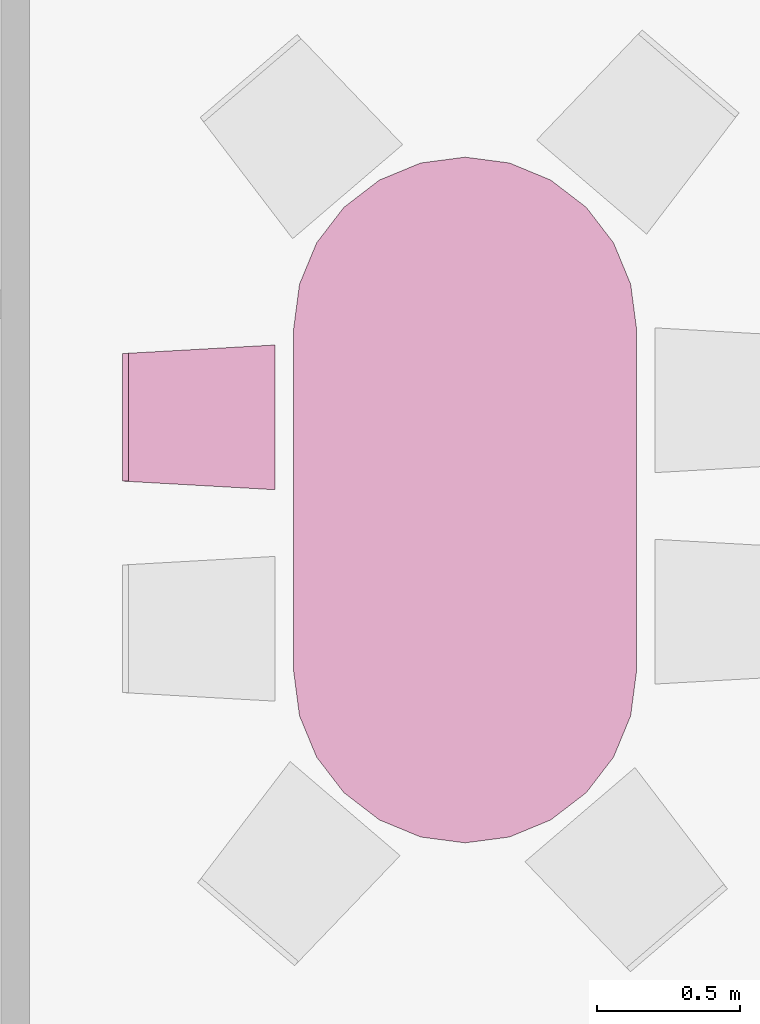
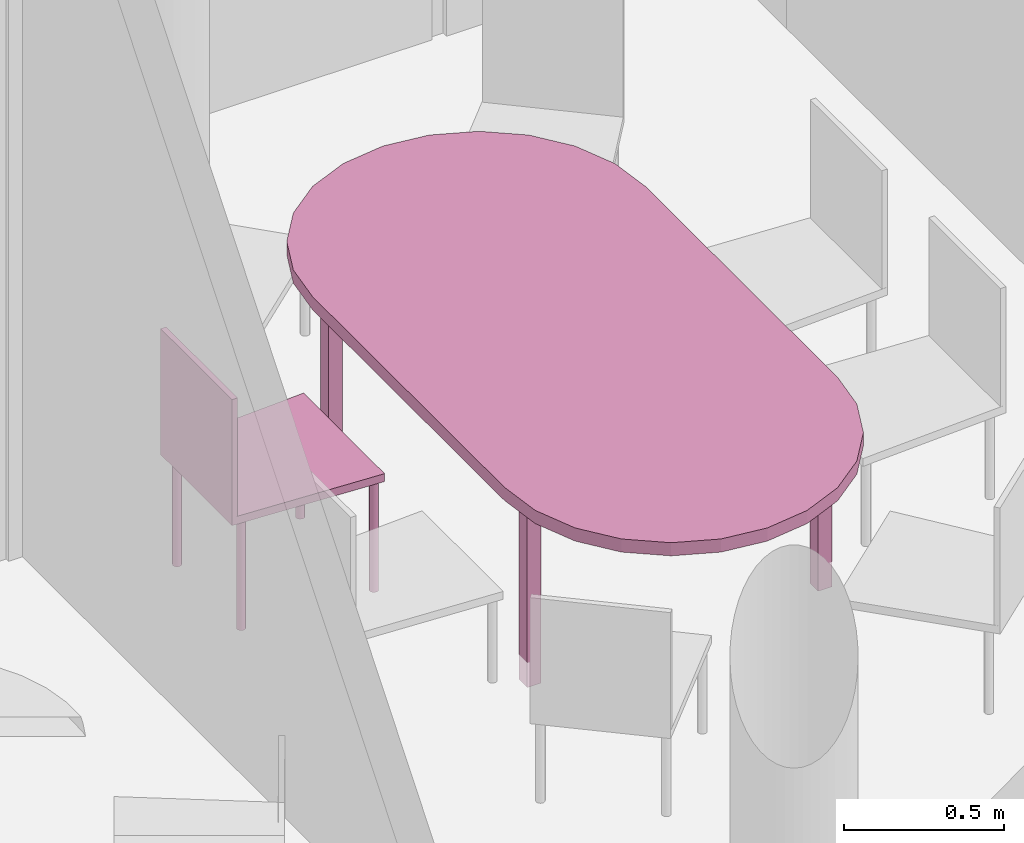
"""IFC4 building model written with IfcOpenShell, lengths in metres."""

from ifc_helpers import new_model, entity, si_unit, converted_unit, derived_unit, frame, origin, place, context, subcontext, project, spatial, faceted_brep, element, save


model = new_model("IFC4")

# Units and contexts
model_context = context("Model", 3, precision=1e-05, world=origin())
body_context = subcontext(model_context, "Body", "Model", "MODEL_VIEW")
ifc_project = project(units=[si_unit("LENGTHUNIT", "METRE"), si_unit("AREAUNIT", "SQUARE_METRE"), si_unit("VOLUMEUNIT", "CUBIC_METRE"), si_unit("MASSUNIT", "GRAM", prefix="KILO"), converted_unit("PLANEANGLEUNIT", "DEGREE", entity("IfcPlaneAngleMeasure", 0.0174532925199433), si_unit("PLANEANGLEUNIT", "RADIAN"), dimensions=[0, 0, 0, 0, 0, 0, 0]), derived_unit("THERMALTRANSMITTANCEUNIT", [(si_unit("POWERUNIT", "WATT"), 1), (si_unit("THERMODYNAMICTEMPERATUREUNIT", "KELVIN"), -1), (si_unit("LENGTHUNIT", "METRE"), -2)]), derived_unit("VOLUMETRICFLOWRATEUNIT", [(si_unit("LENGTHUNIT", "METRE"), 3), (converted_unit("TIMEUNIT", "hour", entity("IfcTimeMeasure", 3600.0), si_unit("TIMEUNIT", "SECOND"), dimensions=[0, 0, 1, 0, 0, 0, 0]), -1), (si_unit("LENGTHUNIT", "METRE"), -1)])], contexts=[model_context])

# Building, storeys
building_placement = place(None, origin())
building = spatial("IfcBuilding", under=ifc_project, at=building_placement, Name="HABITATGE PLURIFAMILIAR", CompositionType="ELEMENT")
storey_1_placement = place(building_placement, frame((0.0, 0.0, 9.26)))
storey_1 = spatial("IfcBuildingStorey", under=building, at=storey_1_placement, Name="PLANTA SEGONA", CompositionType="ELEMENT", Elevation=9.26)
storey_2_placement = place(storey_1_placement, frame((0.0, 0.0, 6.25)))
storey_2 = spatial("IfcBuildingStorey", under=storey_1, at=storey_2_placement, Name="NOU", CompositionType="PARTIAL")

# Furniture
furniture_1_placement = place(storey_2_placement, frame((415.922129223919, 14.4830028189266, -6.34624107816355)))
element("IfcFurniture", 1, at=furniture_1_placement, inside=storey_2, Name="Taula 240X120_P3", context=body_context, shape_type="Brep", body=[
    faceted_brep([(0.0, 1.79994814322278, 0.7), (0.0, 0.599949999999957, 0.7), (0.0204428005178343, 0.444671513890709, 0.7), (0.0803780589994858, 0.299974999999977, 0.7), (0.175721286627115, 0.175721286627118, 0.7), (0.299974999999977, 0.0803780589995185, 0.7), (0.444671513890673, 0.0204428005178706, 0.7), (0.599949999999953, 0.0, 0.7), (0.755228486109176, 0.0204428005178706, 0.7), (0.89992499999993, 0.0803780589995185, 0.7), (1.02417871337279, 0.175721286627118, 0.7), (1.11952194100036, 0.299974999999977, 0.7), (1.17945719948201, 0.444671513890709, 0.7), (1.19989999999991, 0.599949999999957, 0.7), (1.19989999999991, 1.79994814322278, 0.7), (1.17945719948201, 1.95522662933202, 0.7), (1.11952194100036, 2.09992314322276, 0.7), (1.02417871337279, 2.22417685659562, 0.7), (0.89992499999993, 2.31952008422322, 0.7), (0.755228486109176, 2.37945534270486, 0.7), (0.599949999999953, 2.39989814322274, 0.7), (0.444671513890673, 2.37945534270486, 0.7), (0.299974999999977, 2.31952008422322, 0.7), (0.175721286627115, 2.22417685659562, 0.7), (0.0803780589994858, 2.09992314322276, 0.7), (0.0204428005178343, 1.95522662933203, 0.7), (1.19989999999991, 1.79994814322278, 0.75), (1.19989999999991, 0.599949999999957, 0.75), (1.17945719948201, 0.444671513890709, 0.75), (1.11952194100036, 0.299974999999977, 0.75), (1.02417871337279, 0.175721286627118, 0.75), (0.89992499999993, 0.0803780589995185, 0.75), (0.755228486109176, 0.0204428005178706, 0.75), (0.599949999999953, 0.0, 0.75), (0.444671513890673, 0.0204428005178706, 0.75), (0.299974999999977, 0.0803780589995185, 0.75), (0.175721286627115, 0.175721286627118, 0.75), (0.0803780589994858, 0.299974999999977, 0.75), (0.0204428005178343, 0.444671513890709, 0.75), (0.0, 0.599949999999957, 0.75), (0.0, 1.79994814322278, 0.75), (0.0204428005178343, 1.95522662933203, 0.75), (0.0803780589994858, 2.09992314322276, 0.75), (0.175721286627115, 2.22417685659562, 0.75), (0.299974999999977, 2.31952008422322, 0.75), (0.444671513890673, 2.37945534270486, 0.75), (0.599949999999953, 2.39989814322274, 0.75), (0.755228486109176, 2.37945534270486, 0.75), (0.89992499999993, 2.31952008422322, 0.75), (1.02417871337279, 2.22417685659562, 0.75), (1.11952194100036, 2.09992314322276, 0.75), (1.17945719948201, 1.95522662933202, 0.75)], [[[0, 1, 2, 3, 4, 5, 6, 7, 8, 9, 10, 11, 12, 13, 14, 15, 16, 17, 18, 19, 20, 21, 22, 23, 24, 25]], [[26, 27, 28, 29, 30, 31, 32, 33, 34, 35, 36, 37, 38, 39, 40, 41, 42, 43, 44, 45, 46, 47, 48, 49, 50, 51]], [[40, 39, 1, 0]], [[40, 0, 25, 41]], [[41, 25, 24, 42]], [[42, 24, 23, 43]], [[43, 23, 22, 44]], [[44, 22, 21, 45]], [[45, 21, 20, 46]], [[46, 20, 19, 47]], [[47, 19, 18, 48]], [[48, 18, 17, 49]], [[49, 17, 16, 50]], [[50, 16, 15, 51]], [[51, 15, 14, 26]], [[27, 26, 14, 13]], [[27, 13, 12, 28]], [[28, 12, 11, 29]], [[29, 11, 10, 30]], [[30, 10, 9, 31]], [[31, 9, 8, 32]], [[32, 8, 7, 33]], [[33, 7, 6, 34]], [[34, 6, 5, 35]], [[35, 5, 4, 36]], [[36, 4, 3, 37]], [[37, 3, 2, 38]], [[38, 2, 1, 39]]], orient=[[False], [False], [False], [False], [False], [False], [False], [False], [False], [False], [False], [False], [False], [False], [False], [False], [False], [False], [False], [False], [False], [False], [False], [False], [False], [False], [False], [False]]),
    faceted_brep([(1.14989999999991, 0.549949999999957, 0.0), (1.14989999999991, 0.599949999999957, 0.0), (1.09989999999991, 0.599949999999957, 0.0), (1.09989999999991, 0.549949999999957, 0.0), (1.14989999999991, 0.599949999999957, 0.7), (1.14989999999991, 0.549949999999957, 0.7), (1.09989999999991, 0.549949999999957, 0.7), (1.09989999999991, 0.599949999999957, 0.7)], [[[0, 1, 2, 3]], [[4, 5, 6, 7]], [[1, 0, 5, 4]], [[2, 1, 4, 7]], [[3, 2, 7, 6]], [[0, 3, 6, 5]]], orient=[[False], [False], [False], [False], [False], [False]]),
    faceted_brep([(0.102087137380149, 0.549949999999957, 0.0), (0.102087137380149, 0.599949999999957, 0.0), (0.0520871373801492, 0.599949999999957, 0.0), (0.0520871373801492, 0.549949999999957, 0.0), (0.102087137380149, 0.599949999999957, 0.7), (0.102087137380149, 0.549949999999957, 0.7), (0.0520871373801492, 0.549949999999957, 0.7), (0.0520871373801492, 0.599949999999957, 0.7)], [[[0, 1, 2, 3]], [[4, 5, 6, 7]], [[1, 0, 5, 4]], [[2, 1, 4, 7]], [[3, 2, 7, 6]], [[0, 3, 6, 5]]], orient=[[False], [False], [False], [False], [False], [False]]),
    faceted_brep([(0.0520871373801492, 1.78994999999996, 0.0), (0.102087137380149, 1.78994999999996, 0.0), (0.102087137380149, 1.83994999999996, 0.0), (0.0520871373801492, 1.83994999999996, 0.0), (0.0520871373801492, 1.83994999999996, 0.7), (0.102087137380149, 1.83994999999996, 0.7), (0.102087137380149, 1.78994999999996, 0.7), (0.0520871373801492, 1.78994999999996, 0.7)], [[[0, 1, 2, 3]], [[4, 5, 6, 7]], [[3, 4, 7, 0]], [[2, 5, 4, 3]], [[1, 6, 5, 2]], [[0, 7, 6, 1]]], orient=[[False], [False], [False], [False], [False], [False]]),
    faceted_brep([(1.09989999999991, 1.78994999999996, 0.0), (1.14989999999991, 1.78994999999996, 0.0), (1.14989999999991, 1.83994999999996, 0.0), (1.09989999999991, 1.83994999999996, 0.0), (1.09989999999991, 1.83994999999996, 0.7), (1.14989999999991, 1.83994999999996, 0.7), (1.14989999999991, 1.78994999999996, 0.7), (1.09989999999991, 1.78994999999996, 0.7)], [[[0, 1, 2, 3]], [[4, 5, 6, 7]], [[3, 4, 7, 0]], [[2, 5, 4, 3]], [[1, 6, 5, 2]], [[0, 7, 6, 1]]], orient=[[False], [False], [False], [False], [False], [False]]),
])
furniture_2_placement = place(storey_2_placement, frame((415.3239811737, 15.7189615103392, -6.35399550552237)))
element("IfcFurniture", 2, at=furniture_2_placement, inside=storey_2, Name="Cadira confident_P2", context=body_context, shape_type="Brep", body=[
    faceted_brep([(0.507510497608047, 0.0391638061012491, 0.0), (0.504916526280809, 0.03893686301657, 0.0), (0.50240137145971, 0.0382629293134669, 0.0), (0.500041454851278, 0.0371624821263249, 0.0), (0.497908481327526, 0.0356689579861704, 0.0), (0.496067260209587, 0.0338277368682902, 0.0), (0.494573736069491, 0.0316947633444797, 0.0), (0.493473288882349, 0.0293348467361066, 0.0), (0.492799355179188, 0.0268196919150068, 0.0), (0.492572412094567, 0.0242257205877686, 0.0), (0.492799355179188, 0.0216317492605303, 0.0), (0.493473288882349, 0.0191165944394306, 0.0), (0.494573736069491, 0.0167566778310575, 0.0), (0.496067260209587, 0.014623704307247, 0.0), (0.497908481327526, 0.0127824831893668, 0.0), (0.500041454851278, 0.0112889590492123, 0.0), (0.50240137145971, 0.0101885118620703, 0.0), (0.504916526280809, 0.0095145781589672, 0.0), (0.507510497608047, 0.00928763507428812, 0.0), (0.510104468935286, 0.0095145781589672, 0.0), (0.512619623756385, 0.0101885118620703, 0.0), (0.514979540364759, 0.0112889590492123, 0.0), (0.517112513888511, 0.0127824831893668, 0.0), (0.518953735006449, 0.014623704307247, 0.0), (0.520447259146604, 0.0167566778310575, 0.0), (0.521547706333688, 0.0191165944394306, 0.0), (0.522221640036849, 0.0216317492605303, 0.0), (0.522448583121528, 0.0242257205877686, 0.0), (0.522221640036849, 0.0268196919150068, 0.0), (0.521547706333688, 0.0293348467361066, 0.0), (0.520447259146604, 0.0316947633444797, 0.0), (0.518953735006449, 0.0338277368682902, 0.0), (0.517112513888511, 0.0356689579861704, 0.0), (0.514979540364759, 0.0371624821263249, 0.0), (0.512619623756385, 0.0382629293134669, 0.0), (0.510104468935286, 0.03893686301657, 0.0), (0.507510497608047, 0.0391638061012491, 0.448281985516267), (0.510104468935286, 0.03893686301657, 0.448281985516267), (0.512619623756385, 0.0382629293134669, 0.448281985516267), (0.514979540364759, 0.0371624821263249, 0.448281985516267), (0.517112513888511, 0.0356689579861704, 0.448281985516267), (0.518953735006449, 0.0338277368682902, 0.448281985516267), (0.520447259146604, 0.0316947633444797, 0.448281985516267), (0.521547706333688, 0.0293348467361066, 0.448281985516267), (0.522221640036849, 0.0268196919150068, 0.448281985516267), (0.522448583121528, 0.0242257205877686, 0.448281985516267), (0.522221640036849, 0.0216317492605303, 0.448281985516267), (0.521547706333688, 0.0191165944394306, 0.448281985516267), (0.520447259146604, 0.0167566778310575, 0.448281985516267), (0.518953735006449, 0.014623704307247, 0.448281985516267), (0.517112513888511, 0.0127824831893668, 0.448281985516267), (0.514979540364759, 0.0112889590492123, 0.448281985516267), (0.512619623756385, 0.0101885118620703, 0.448281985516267), (0.510104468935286, 0.0095145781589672, 0.448281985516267), (0.507510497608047, 0.00928763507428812, 0.448281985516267), (0.504916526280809, 0.0095145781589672, 0.448281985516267), (0.50240137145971, 0.0101885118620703, 0.448281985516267), (0.500041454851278, 0.0112889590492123, 0.448281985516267), (0.497908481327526, 0.0127824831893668, 0.448281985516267), (0.496067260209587, 0.014623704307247, 0.448281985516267), (0.494573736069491, 0.0167566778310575, 0.448281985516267), (0.493473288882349, 0.0191165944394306, 0.448281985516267), (0.492799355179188, 0.0216317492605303, 0.448281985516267), (0.492572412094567, 0.0242257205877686, 0.448281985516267), (0.492799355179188, 0.0268196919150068, 0.448281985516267), (0.493473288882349, 0.0293348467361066, 0.448281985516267), (0.494573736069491, 0.0316947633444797, 0.448281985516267), (0.496067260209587, 0.0338277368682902, 0.448281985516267), (0.497908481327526, 0.0356689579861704, 0.448281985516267), (0.500041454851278, 0.0371624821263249, 0.448281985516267), (0.50240137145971, 0.0382629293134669, 0.448281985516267), (0.504916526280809, 0.03893686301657, 0.448281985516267)], [[[0, 1, 2, 3, 4, 5, 6, 7, 8, 9, 10, 11, 12, 13, 14, 15, 16, 17, 18, 19, 20, 21, 22, 23, 24, 25, 26, 27, 28, 29, 30, 31, 32, 33, 34, 35]], [[36, 37, 38, 39, 40, 41, 42, 43, 44, 45, 46, 47, 48, 49, 50, 51, 52, 53, 54, 55, 56, 57, 58, 59, 60, 61, 62, 63, 64, 65, 66, 67, 68, 69, 70, 71]], [[1, 0, 36, 71]], [[2, 1, 71, 70]], [[3, 2, 70, 69]], [[4, 3, 69, 68]], [[5, 4, 68, 67]], [[6, 5, 67, 66]], [[7, 6, 66, 65]], [[8, 7, 65, 64]], [[9, 8, 64, 63]], [[10, 9, 63, 62]], [[11, 10, 62, 61]], [[12, 11, 61, 60]], [[13, 12, 60, 59]], [[14, 13, 59, 58]], [[15, 14, 58, 57]], [[16, 15, 57, 56]], [[17, 16, 56, 55]], [[18, 17, 55, 54]], [[19, 18, 54, 53]], [[20, 19, 53, 52]], [[21, 20, 52, 51]], [[22, 21, 51, 50]], [[23, 22, 50, 49]], [[24, 23, 49, 48]], [[25, 24, 48, 47]], [[26, 25, 47, 46]], [[27, 26, 46, 45]], [[28, 27, 45, 44]], [[29, 28, 44, 43]], [[30, 29, 43, 42]], [[31, 30, 42, 41]], [[32, 31, 41, 40]], [[33, 32, 40, 39]], [[34, 33, 39, 38]], [[35, 34, 38, 37]], [[0, 35, 37, 36]]], orient=[[False], [False], [False], [False], [False], [False], [False], [False], [False], [False], [False], [False], [False], [False], [False], [False], [False], [False], [False], [False], [False], [False], [False], [False], [False], [False], [False], [False], [False], [False], [False], [False], [False], [False], [False], [False], [False], [False]]),
    faceted_brep([(0.0451034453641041, 0.0668018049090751, 0.0), (0.0425094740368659, 0.0665748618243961, 0.0), (0.0399943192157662, 0.065900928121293, 0.0), (0.0376344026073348, 0.064800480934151, 0.0), (0.0355014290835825, 0.0633069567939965, 0.0), (0.0336602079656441, 0.0614657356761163, 0.0), (0.0321666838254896, 0.0593327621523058, 0.0), (0.0310662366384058, 0.0569728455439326, 0.0), (0.0303923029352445, 0.0544576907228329, 0.0), (0.0301653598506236, 0.0518637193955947, 0.0), (0.0303923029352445, 0.0492697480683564, 0.0), (0.0310662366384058, 0.0467545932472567, 0.0), (0.0321666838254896, 0.0443946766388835, 0.0), (0.0336602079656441, 0.042261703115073, 0.0), (0.0355014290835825, 0.0404204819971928, 0.0), (0.0376344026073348, 0.0389269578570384, 0.0), (0.0399943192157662, 0.0378265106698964, 0.0), (0.0425094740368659, 0.0371525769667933, 0.0), (0.0451034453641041, 0.0369256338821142, 0.0), (0.0476974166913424, 0.0371525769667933, 0.0), (0.0502125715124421, 0.0378265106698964, 0.0), (0.0525724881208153, 0.0389269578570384, 0.0), (0.0547054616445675, 0.0404204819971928, 0.0), (0.056546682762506, 0.042261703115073, 0.0), (0.0580402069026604, 0.0443946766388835, 0.0), (0.0591406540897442, 0.0467545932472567, 0.0), (0.0598145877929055, 0.0492697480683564, 0.0), (0.0600415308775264, 0.0518637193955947, 0.0), (0.0598145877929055, 0.0544576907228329, 0.0), (0.0591406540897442, 0.0569728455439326, 0.0), (0.0580402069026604, 0.0593327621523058, 0.0), (0.056546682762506, 0.0614657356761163, 0.0), (0.0547054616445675, 0.0633069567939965, 0.0), (0.0525724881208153, 0.064800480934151, 0.0), (0.0502125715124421, 0.065900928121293, 0.0), (0.0476974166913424, 0.0665748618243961, 0.0), (0.0451034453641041, 0.0668018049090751, 0.448281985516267), (0.0476974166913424, 0.0665748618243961, 0.448281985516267), (0.0502125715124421, 0.065900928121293, 0.448281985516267), (0.0525724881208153, 0.064800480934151, 0.448281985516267), (0.0547054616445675, 0.0633069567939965, 0.448281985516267), (0.056546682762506, 0.0614657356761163, 0.448281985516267), (0.0580402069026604, 0.0593327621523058, 0.448281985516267), (0.0591406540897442, 0.0569728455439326, 0.448281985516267), (0.0598145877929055, 0.0544576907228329, 0.448281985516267), (0.0600415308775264, 0.0518637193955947, 0.448281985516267), (0.0598145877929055, 0.0492697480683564, 0.448281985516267), (0.0591406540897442, 0.0467545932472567, 0.448281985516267), (0.0580402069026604, 0.0443946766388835, 0.448281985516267), (0.056546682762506, 0.042261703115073, 0.448281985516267), (0.0547054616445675, 0.0404204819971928, 0.448281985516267), (0.0525724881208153, 0.0389269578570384, 0.448281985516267), (0.0502125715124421, 0.0378265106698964, 0.448281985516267), (0.0476974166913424, 0.0371525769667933, 0.448281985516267), (0.0451034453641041, 0.0369256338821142, 0.448281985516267), (0.0425094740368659, 0.0371525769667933, 0.448281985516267), (0.0399943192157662, 0.0378265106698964, 0.448281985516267), (0.0376344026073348, 0.0389269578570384, 0.448281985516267), (0.0355014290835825, 0.0404204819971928, 0.448281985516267), (0.0336602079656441, 0.042261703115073, 0.448281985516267), (0.0321666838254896, 0.0443946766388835, 0.448281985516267), (0.0310662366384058, 0.0467545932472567, 0.448281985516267), (0.0303923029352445, 0.0492697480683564, 0.448281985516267), (0.0301653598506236, 0.0518637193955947, 0.448281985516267), (0.0303923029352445, 0.0544576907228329, 0.448281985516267), (0.0310662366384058, 0.0569728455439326, 0.448281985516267), (0.0321666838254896, 0.0593327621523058, 0.448281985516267), (0.0336602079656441, 0.0614657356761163, 0.448281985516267), (0.0355014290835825, 0.0633069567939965, 0.448281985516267), (0.0376344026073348, 0.064800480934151, 0.448281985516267), (0.0399943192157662, 0.065900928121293, 0.448281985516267), (0.0425094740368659, 0.0665748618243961, 0.448281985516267)], [[[0, 1, 2, 3, 4, 5, 6, 7, 8, 9, 10, 11, 12, 13, 14, 15, 16, 17, 18, 19, 20, 21, 22, 23, 24, 25, 26, 27, 28, 29, 30, 31, 32, 33, 34, 35]], [[36, 37, 38, 39, 40, 41, 42, 43, 44, 45, 46, 47, 48, 49, 50, 51, 52, 53, 54, 55, 56, 57, 58, 59, 60, 61, 62, 63, 64, 65, 66, 67, 68, 69, 70, 71]], [[1, 0, 36, 71]], [[2, 1, 71, 70]], [[3, 2, 70, 69]], [[4, 3, 69, 68]], [[5, 4, 68, 67]], [[6, 5, 67, 66]], [[7, 6, 66, 65]], [[8, 7, 65, 64]], [[9, 8, 64, 63]], [[10, 9, 63, 62]], [[11, 10, 62, 61]], [[12, 11, 61, 60]], [[13, 12, 60, 59]], [[14, 13, 59, 58]], [[15, 14, 58, 57]], [[16, 15, 57, 56]], [[17, 16, 56, 55]], [[18, 17, 55, 54]], [[19, 18, 54, 53]], [[20, 19, 53, 52]], [[21, 20, 52, 51]], [[22, 21, 51, 50]], [[23, 22, 50, 49]], [[24, 23, 49, 48]], [[25, 24, 48, 47]], [[26, 25, 47, 46]], [[27, 26, 46, 45]], [[28, 27, 45, 44]], [[29, 28, 44, 43]], [[30, 29, 43, 42]], [[31, 30, 42, 41]], [[32, 31, 41, 40]], [[33, 32, 40, 39]], [[34, 33, 39, 38]], [[35, 34, 38, 37]], [[0, 35, 37, 36]]], orient=[[False], [False], [False], [False], [False], [False], [False], [False], [False], [False], [False], [False], [False], [False], [False], [False], [False], [False], [False], [False], [False], [False], [False], [False], [False], [False], [False], [False], [False], [False], [False], [False], [False], [False], [False], [False], [False], [False]]),
    faceted_brep([(0.507510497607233, 0.499163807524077, 0.0), (0.504916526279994, 0.498936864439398, 0.0), (0.502401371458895, 0.498262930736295, 0.0), (0.500041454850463, 0.497162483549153, 0.0), (0.497908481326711, 0.495668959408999, 0.0), (0.496067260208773, 0.493827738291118, 0.0), (0.494573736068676, 0.491694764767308, 0.0), (0.493473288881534, 0.489334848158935, 0.0), (0.492799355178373, 0.486819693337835, 0.0), (0.492572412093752, 0.484225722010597, 0.0), (0.492799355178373, 0.481631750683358, 0.0), (0.493473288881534, 0.479116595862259, 0.0), (0.494573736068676, 0.476756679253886, 0.0), (0.496067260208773, 0.474623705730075, 0.0), (0.497908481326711, 0.472782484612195, 0.0), (0.500041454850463, 0.47128896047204, 0.0), (0.502401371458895, 0.470188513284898, 0.0), (0.504916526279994, 0.469514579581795, 0.0), (0.507510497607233, 0.469287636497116, 0.0), (0.510104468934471, 0.469514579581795, 0.0), (0.51261962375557, 0.470188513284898, 0.0), (0.514979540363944, 0.47128896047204, 0.0), (0.517112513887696, 0.472782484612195, 0.0), (0.518953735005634, 0.474623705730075, 0.0), (0.520447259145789, 0.476756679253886, 0.0), (0.521547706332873, 0.479116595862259, 0.0), (0.522221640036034, 0.481631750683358, 0.0), (0.522448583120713, 0.484225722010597, 0.0), (0.522221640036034, 0.486819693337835, 0.0), (0.521547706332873, 0.489334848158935, 0.0), (0.520447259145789, 0.491694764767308, 0.0), (0.518953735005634, 0.493827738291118, 0.0), (0.517112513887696, 0.495668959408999, 0.0), (0.514979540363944, 0.497162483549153, 0.0), (0.51261962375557, 0.498262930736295, 0.0), (0.510104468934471, 0.498936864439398, 0.0), (0.507510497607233, 0.499163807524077, 0.448281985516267), (0.510104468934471, 0.498936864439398, 0.448281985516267), (0.51261962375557, 0.498262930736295, 0.448281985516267), (0.514979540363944, 0.497162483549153, 0.448281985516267), (0.517112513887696, 0.495668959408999, 0.448281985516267), (0.518953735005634, 0.493827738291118, 0.448281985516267), (0.520447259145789, 0.491694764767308, 0.448281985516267), (0.521547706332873, 0.489334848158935, 0.448281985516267), (0.522221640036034, 0.486819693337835, 0.448281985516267), (0.522448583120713, 0.484225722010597, 0.448281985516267), (0.522221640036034, 0.481631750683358, 0.448281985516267), (0.521547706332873, 0.479116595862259, 0.448281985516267), (0.520447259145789, 0.476756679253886, 0.448281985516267), (0.518953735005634, 0.474623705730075, 0.448281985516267), (0.517112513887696, 0.472782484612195, 0.448281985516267), (0.514979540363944, 0.47128896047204, 0.448281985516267), (0.51261962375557, 0.470188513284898, 0.448281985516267), (0.510104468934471, 0.469514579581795, 0.448281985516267), (0.507510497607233, 0.469287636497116, 0.448281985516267), (0.504916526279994, 0.469514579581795, 0.448281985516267), (0.502401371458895, 0.470188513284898, 0.448281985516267), (0.500041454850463, 0.47128896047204, 0.448281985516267), (0.497908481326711, 0.472782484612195, 0.448281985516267), (0.496067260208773, 0.474623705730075, 0.448281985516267), (0.494573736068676, 0.476756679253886, 0.448281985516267), (0.493473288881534, 0.479116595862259, 0.448281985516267), (0.492799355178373, 0.481631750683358, 0.448281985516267), (0.492572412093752, 0.484225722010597, 0.448281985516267), (0.492799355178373, 0.486819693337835, 0.448281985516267), (0.493473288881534, 0.489334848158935, 0.448281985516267), (0.494573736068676, 0.491694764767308, 0.448281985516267), (0.496067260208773, 0.493827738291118, 0.448281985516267), (0.497908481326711, 0.495668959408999, 0.448281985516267), (0.500041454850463, 0.497162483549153, 0.448281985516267), (0.502401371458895, 0.498262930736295, 0.448281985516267), (0.504916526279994, 0.498936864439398, 0.448281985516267)], [[[0, 1, 2, 3, 4, 5, 6, 7, 8, 9, 10, 11, 12, 13, 14, 15, 16, 17, 18, 19, 20, 21, 22, 23, 24, 25, 26, 27, 28, 29, 30, 31, 32, 33, 34, 35]], [[36, 37, 38, 39, 40, 41, 42, 43, 44, 45, 46, 47, 48, 49, 50, 51, 52, 53, 54, 55, 56, 57, 58, 59, 60, 61, 62, 63, 64, 65, 66, 67, 68, 69, 70, 71]], [[1, 0, 36, 71]], [[2, 1, 71, 70]], [[3, 2, 70, 69]], [[4, 3, 69, 68]], [[5, 4, 68, 67]], [[6, 5, 67, 66]], [[7, 6, 66, 65]], [[8, 7, 65, 64]], [[9, 8, 64, 63]], [[10, 9, 63, 62]], [[11, 10, 62, 61]], [[12, 11, 61, 60]], [[13, 12, 60, 59]], [[14, 13, 59, 58]], [[15, 14, 58, 57]], [[16, 15, 57, 56]], [[17, 16, 56, 55]], [[18, 17, 55, 54]], [[19, 18, 54, 53]], [[20, 19, 53, 52]], [[21, 20, 52, 51]], [[22, 21, 51, 50]], [[23, 22, 50, 49]], [[24, 23, 49, 48]], [[25, 24, 48, 47]], [[26, 25, 47, 46]], [[27, 26, 46, 45]], [[28, 27, 45, 44]], [[29, 28, 44, 43]], [[30, 29, 43, 42]], [[31, 30, 42, 41]], [[32, 31, 41, 40]], [[33, 32, 40, 39]], [[34, 33, 39, 38]], [[35, 34, 38, 37]], [[0, 35, 37, 36]]], orient=[[False], [False], [False], [False], [False], [False], [False], [False], [False], [False], [False], [False], [False], [False], [False], [False], [False], [False], [False], [False], [False], [False], [False], [False], [False], [False], [False], [False], [False], [False], [False], [False], [False], [False], [False], [False], [False], [False]]),
    faceted_brep([(0.0451034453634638, 0.466801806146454, 0.0), (0.0425094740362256, 0.466574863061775, 0.0), (0.0399943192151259, 0.465900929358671, 0.0), (0.0376344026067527, 0.464800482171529, 0.0), (0.0355014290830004, 0.463306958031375, 0.0), (0.033660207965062, 0.461465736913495, 0.0), (0.0321666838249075, 0.459332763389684, 0.0), (0.0310662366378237, 0.456972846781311, 0.0), (0.0303923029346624, 0.454457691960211, 0.0), (0.0301653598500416, 0.451863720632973, 0.0), (0.0303923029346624, 0.449269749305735, 0.0), (0.0310662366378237, 0.446754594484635, 0.0), (0.0321666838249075, 0.444394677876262, 0.0), (0.033660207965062, 0.442261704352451, 0.0), (0.0355014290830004, 0.440420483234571, 0.0), (0.0376344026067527, 0.438926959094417, 0.0), (0.0399943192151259, 0.437826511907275, 0.0), (0.0425094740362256, 0.437152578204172, 0.0), (0.0451034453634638, 0.436925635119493, 0.0), (0.0476974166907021, 0.437152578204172, 0.0), (0.0502125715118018, 0.437826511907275, 0.0), (0.052572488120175, 0.438926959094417, 0.0), (0.0547054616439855, 0.440420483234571, 0.0), (0.0565466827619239, 0.442261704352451, 0.0), (0.0580402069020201, 0.444394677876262, 0.0), (0.0591406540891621, 0.446754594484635, 0.0), (0.0598145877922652, 0.449269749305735, 0.0), (0.0600415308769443, 0.451863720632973, 0.0), (0.0598145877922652, 0.454457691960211, 0.0), (0.0591406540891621, 0.456972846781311, 0.0), (0.0580402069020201, 0.459332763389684, 0.0), (0.0565466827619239, 0.461465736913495, 0.0), (0.0547054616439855, 0.463306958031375, 0.0), (0.052572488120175, 0.464800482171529, 0.0), (0.0502125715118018, 0.465900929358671, 0.0), (0.0476974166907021, 0.466574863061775, 0.0), (0.0451034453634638, 0.466801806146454, 0.448281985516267), (0.0476974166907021, 0.466574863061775, 0.448281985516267), (0.0502125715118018, 0.465900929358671, 0.448281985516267), (0.052572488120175, 0.464800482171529, 0.448281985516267), (0.0547054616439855, 0.463306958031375, 0.448281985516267), (0.0565466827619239, 0.461465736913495, 0.448281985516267), (0.0580402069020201, 0.459332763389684, 0.448281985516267), (0.0591406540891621, 0.456972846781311, 0.448281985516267), (0.0598145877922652, 0.454457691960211, 0.448281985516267), (0.0600415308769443, 0.451863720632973, 0.448281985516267), (0.0598145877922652, 0.449269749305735, 0.448281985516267), (0.0591406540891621, 0.446754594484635, 0.448281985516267), (0.0580402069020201, 0.444394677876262, 0.448281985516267), (0.0565466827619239, 0.442261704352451, 0.448281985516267), (0.0547054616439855, 0.440420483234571, 0.448281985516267), (0.052572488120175, 0.438926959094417, 0.448281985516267), (0.0502125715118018, 0.437826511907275, 0.448281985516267), (0.0476974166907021, 0.437152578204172, 0.448281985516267), (0.0451034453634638, 0.436925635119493, 0.448281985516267), (0.0425094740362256, 0.437152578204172, 0.448281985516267), (0.0399943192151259, 0.437826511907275, 0.448281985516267), (0.0376344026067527, 0.438926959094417, 0.448281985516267), (0.0355014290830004, 0.440420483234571, 0.448281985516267), (0.033660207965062, 0.442261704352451, 0.448281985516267), (0.0321666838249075, 0.444394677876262, 0.448281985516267), (0.0310662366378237, 0.446754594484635, 0.448281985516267), (0.0303923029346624, 0.449269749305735, 0.448281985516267), (0.0301653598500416, 0.451863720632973, 0.448281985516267), (0.0303923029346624, 0.454457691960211, 0.448281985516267), (0.0310662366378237, 0.456972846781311, 0.448281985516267), (0.0321666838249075, 0.459332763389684, 0.448281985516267), (0.033660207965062, 0.461465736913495, 0.448281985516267), (0.0355014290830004, 0.463306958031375, 0.448281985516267), (0.0376344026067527, 0.464800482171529, 0.448281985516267), (0.0399943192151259, 0.465900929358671, 0.448281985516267), (0.0425094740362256, 0.466574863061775, 0.448281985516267)], [[[0, 1, 2, 3, 4, 5, 6, 7, 8, 9, 10, 11, 12, 13, 14, 15, 16, 17, 18, 19, 20, 21, 22, 23, 24, 25, 26, 27, 28, 29, 30, 31, 32, 33, 34, 35]], [[36, 37, 38, 39, 40, 41, 42, 43, 44, 45, 46, 47, 48, 49, 50, 51, 52, 53, 54, 55, 56, 57, 58, 59, 60, 61, 62, 63, 64, 65, 66, 67, 68, 69, 70, 71]], [[1, 0, 36, 71]], [[2, 1, 71, 70]], [[3, 2, 70, 69]], [[4, 3, 69, 68]], [[5, 4, 68, 67]], [[6, 5, 67, 66]], [[7, 6, 66, 65]], [[8, 7, 65, 64]], [[9, 8, 64, 63]], [[10, 9, 63, 62]], [[11, 10, 62, 61]], [[12, 11, 61, 60]], [[13, 12, 60, 59]], [[14, 13, 59, 58]], [[15, 14, 58, 57]], [[16, 15, 57, 56]], [[17, 16, 56, 55]], [[18, 17, 55, 54]], [[19, 18, 54, 53]], [[20, 19, 53, 52]], [[21, 20, 52, 51]], [[22, 21, 51, 50]], [[23, 22, 50, 49]], [[24, 23, 49, 48]], [[25, 24, 48, 47]], [[26, 25, 47, 46]], [[27, 26, 46, 45]], [[28, 27, 45, 44]], [[29, 28, 44, 43]], [[30, 29, 43, 42]], [[31, 30, 42, 41]], [[32, 31, 41, 40]], [[33, 32, 40, 39]], [[34, 33, 39, 38]], [[35, 34, 38, 37]], [[0, 35, 37, 36]]], orient=[[False], [False], [False], [False], [False], [False], [False], [False], [False], [False], [False], [False], [False], [False], [False], [False], [False], [False], [False], [False], [False], [False], [False], [False], [False], [False], [False], [False], [False], [False], [False], [False], [False], [False], [False], [False], [False], [False]]),
    faceted_brep([(0.0, 0.476514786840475, 0.418281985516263), (0.0, 0.0300000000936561, 0.418281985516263), (0.532607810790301, 0.0, 0.418281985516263), (0.532607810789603, 0.506514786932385, 0.418281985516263), (0.532607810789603, 0.506514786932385, 0.448281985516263), (0.532607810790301, 0.0, 0.448281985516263), (0.0, 0.0300000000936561, 0.448281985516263), (0.0, 0.476514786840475, 0.448281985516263)], [[[0, 1, 2, 3]], [[4, 5, 6, 7]], [[3, 4, 7, 0]], [[2, 5, 4, 3]], [[1, 6, 5, 2]], [[0, 7, 6, 1]]], orient=[[False], [False], [False], [False], [False], [False]]),
    faceted_brep([(0.0200000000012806, 0.476514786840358, 0.448281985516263), (0.0, 0.476514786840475, 0.448281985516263), (0.0, 0.0300000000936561, 0.448281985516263), (0.0200000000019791, 0.0300000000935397, 0.448281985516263), (0.0200000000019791, 0.0300000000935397, 0.898281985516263), (0.0, 0.0300000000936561, 0.898281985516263), (0.0, 0.476514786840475, 0.898281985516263), (0.0200000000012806, 0.476514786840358, 0.898281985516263)], [[[0, 1, 2, 3]], [[4, 5, 6, 7]], [[3, 4, 7, 0]], [[2, 5, 4, 3]], [[1, 6, 5, 2]], [[0, 7, 6, 1]]], orient=[[False], [False], [False], [False], [False], [False]]),
])

save(model, "model.ifc")
